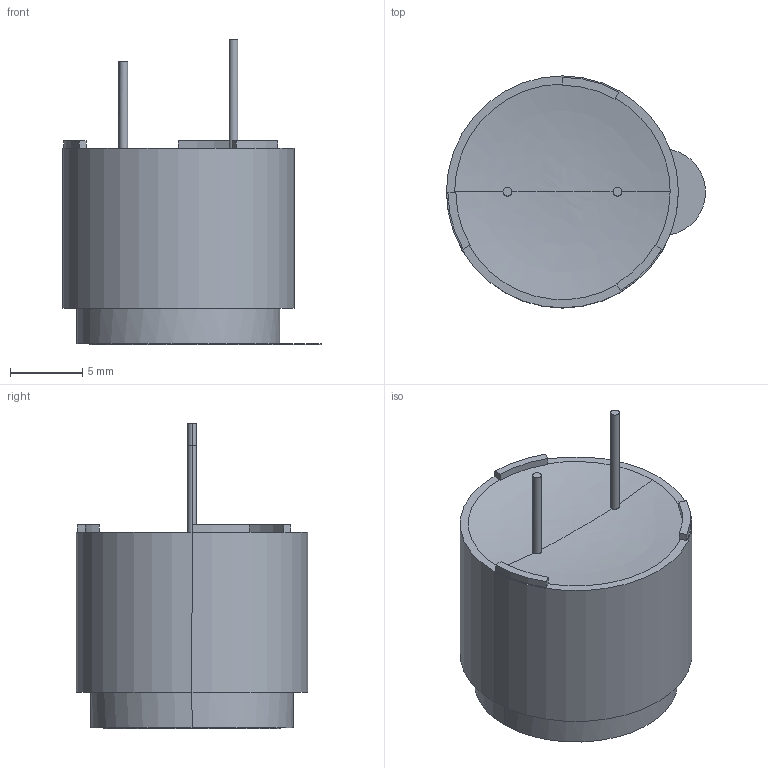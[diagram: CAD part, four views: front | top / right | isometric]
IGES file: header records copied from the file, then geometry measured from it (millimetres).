
Global section: file name: No Iges File Name specified; native system: AutoDesk Inventor R12.0; preprocessor: AutoDesk Inventor Iges Exporter R12.0; date: 20090219.084945; units: millimetre
Bounding box: 17.87 x 16 x 21.05 mm (x, y, z)
Volume: 2851.1 mm3; surface area: 1441.9 mm2
Topology: 2 solids, 2 shells, 46 faces, 108 edges, 67 vertices
Faces by surface type: plane 24, cylinder 13, revolution 7, bspline 2
